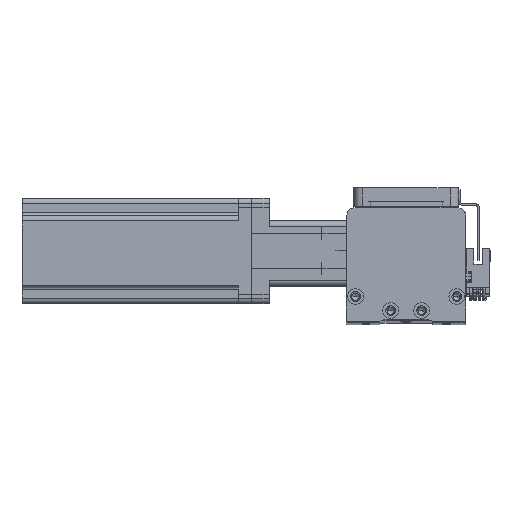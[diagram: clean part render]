
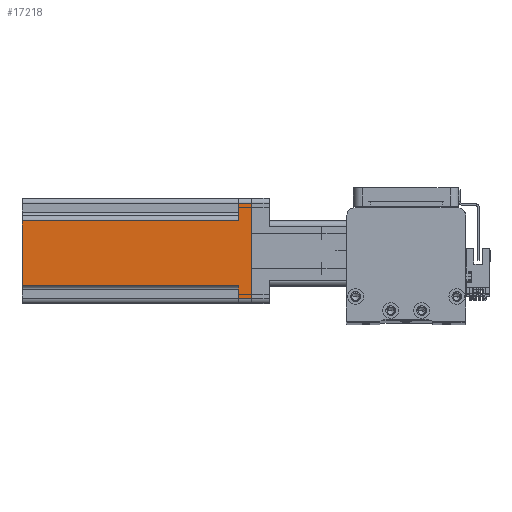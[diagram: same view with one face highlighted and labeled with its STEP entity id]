
A CAD part, top view. The second image highlights one B-rep face of the part: STEP entity #17218.
In plain terms, the highlighted planar face has unit normal (0, 0, 1) as drawn and (-1, 0, 0) by its records, which use the part's own axes.
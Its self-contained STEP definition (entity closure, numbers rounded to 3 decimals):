
#975 = DIRECTION ( 'NONE',  ( 0., -1., 0. ) ) ;
#2198 = CARTESIAN_POINT ( 'NONE',  ( -30., -17., 130.7 ) ) ;
#2446 = CARTESIAN_POINT ( 'NONE',  ( -30., -30., 7.5 ) ) ;
#3631 = CARTESIAN_POINT ( 'NONE',  ( -30., 20., 130.7 ) ) ;
#3705 = VECTOR ( 'NONE', #33616, 1000. ) ;
#4939 = EDGE_CURVE ( 'NONE', #26933, #25675, #16751, .T. ) ;
#4996 = DIRECTION ( 'NONE',  ( 0., 0., 1. ) ) ;
#5742 = VECTOR ( 'NONE', #42583, 1000. ) ;
#6222 = LINE ( 'NONE', #25779, #13486 ) ;
#7734 = ORIENTED_EDGE ( 'NONE', *, *, #42131, .T. ) ;
#8685 = EDGE_LOOP ( 'NONE', ( #45707, #26790, #38053, #40743, #7734, #13341, #11885, #38137 ) ) ;
#9564 = DIRECTION ( 'NONE',  ( 0., -1., 0. ) ) ;
#10304 = VECTOR ( 'NONE', #9564, 1000. ) ;
#11481 = DIRECTION ( 'NONE',  ( 0., 1., 0. ) ) ;
#11885 = ORIENTED_EDGE ( 'NONE', *, *, #21982, .T. ) ;
#13341 = ORIENTED_EDGE ( 'NONE', *, *, #15105, .T. ) ;
#13486 = VECTOR ( 'NONE', #975, 1000. ) ;
#13599 = DIRECTION ( 'NONE',  ( 0., 0., -1. ) ) ;
#13803 = CARTESIAN_POINT ( 'NONE',  ( -30., -27., 0. ) ) ;
#15105 = EDGE_CURVE ( 'NONE', #21578, #30919, #29272, .T. ) ;
#15106 = LINE ( 'NONE', #40516, #32922 ) ;
#15823 = CARTESIAN_POINT ( 'NONE',  ( -30., 27., 7.5 ) ) ;
#16147 = VERTEX_POINT ( 'NONE', #13803 ) ;
#16638 = DIRECTION ( 'NONE',  ( 1., 0., 0. ) ) ;
#16751 = LINE ( 'NONE', #22231, #35692 ) ;
#17218 = ADVANCED_FACE ( 'NONE', ( #17254 ), #26950, .F. ) ;
#17254 = FACE_OUTER_BOUND ( 'NONE', #8685, .T. ) ;
#17265 = VERTEX_POINT ( 'NONE', #38443 ) ;
#18806 = LINE ( 'NONE', #36342, #27198 ) ;
#19778 = LINE ( 'NONE', #2446, #10304 ) ;
#21311 = CARTESIAN_POINT ( 'NONE',  ( -30., -27., 130.7 ) ) ;
#21578 = VERTEX_POINT ( 'NONE', #15823 ) ;
#21982 = EDGE_CURVE ( 'NONE', #30919, #16147, #6222, .T. ) ;
#22231 = CARTESIAN_POINT ( 'NONE',  ( -30., -30., 130.7 ) ) ;
#24695 = VERTEX_POINT ( 'NONE', #29896 ) ;
#25675 = VERTEX_POINT ( 'NONE', #2198 ) ;
#25779 = CARTESIAN_POINT ( 'NONE',  ( -30., -30., 0. ) ) ;
#26358 = EDGE_CURVE ( 'NONE', #16147, #17265, #43636, .T. ) ;
#26790 = ORIENTED_EDGE ( 'NONE', *, *, #32834, .T. ) ;
#26933 = VERTEX_POINT ( 'NONE', #3631 ) ;
#26950 = PLANE ( 'NONE',  #35823 ) ;
#27198 = VECTOR ( 'NONE', #11481, 1000. ) ;
#29272 = LINE ( 'NONE', #31383, #37618 ) ;
#29785 = EDGE_CURVE ( 'NONE', #24695, #17265, #19778, .T. ) ;
#29896 = CARTESIAN_POINT ( 'NONE',  ( -30., -17., 7.5 ) ) ;
#30097 = CARTESIAN_POINT ( 'NONE',  ( -30., 20., 7.5 ) ) ;
#30919 = VERTEX_POINT ( 'NONE', #39260 ) ;
#31383 = CARTESIAN_POINT ( 'NONE',  ( -30., 27., 130.7 ) ) ;
#32143 = LINE ( 'NONE', #30097, #3705 ) ;
#32775 = DIRECTION ( 'NONE',  ( 0., -1., 0. ) ) ;
#32834 = EDGE_CURVE ( 'NONE', #24695, #25675, #15106, .T. ) ;
#32922 = VECTOR ( 'NONE', #4996, 1000. ) ;
#33616 = DIRECTION ( 'NONE',  ( 0., 0., 1. ) ) ;
#35692 = VECTOR ( 'NONE', #32775, 1000. ) ;
#35823 = AXIS2_PLACEMENT_3D ( 'NONE', #37982, #16638, #41552 ) ;
#36342 = CARTESIAN_POINT ( 'NONE',  ( -30., 30., 7.5 ) ) ;
#37618 = VECTOR ( 'NONE', #13599, 1000. ) ;
#37668 = EDGE_CURVE ( 'NONE', #45026, #26933, #32143, .T. ) ;
#37982 = CARTESIAN_POINT ( 'NONE',  ( -30., -30., 130.7 ) ) ;
#38053 = ORIENTED_EDGE ( 'NONE', *, *, #4939, .F. ) ;
#38137 = ORIENTED_EDGE ( 'NONE', *, *, #26358, .T. ) ;
#38443 = CARTESIAN_POINT ( 'NONE',  ( -30., -27., 7.5 ) ) ;
#39260 = CARTESIAN_POINT ( 'NONE',  ( -30., 27., 0. ) ) ;
#40516 = CARTESIAN_POINT ( 'NONE',  ( -30., -17., 130.7 ) ) ;
#40743 = ORIENTED_EDGE ( 'NONE', *, *, #37668, .F. ) ;
#41552 = DIRECTION ( 'NONE',  ( 0., 0., -1. ) ) ;
#42131 = EDGE_CURVE ( 'NONE', #45026, #21578, #18806, .T. ) ;
#42233 = CARTESIAN_POINT ( 'NONE',  ( -30., 20., 7.5 ) ) ;
#42583 = DIRECTION ( 'NONE',  ( 0., 0., 1. ) ) ;
#43636 = LINE ( 'NONE', #21311, #5742 ) ;
#45026 = VERTEX_POINT ( 'NONE', #42233 ) ;
#45707 = ORIENTED_EDGE ( 'NONE', *, *, #29785, .F. ) ;
